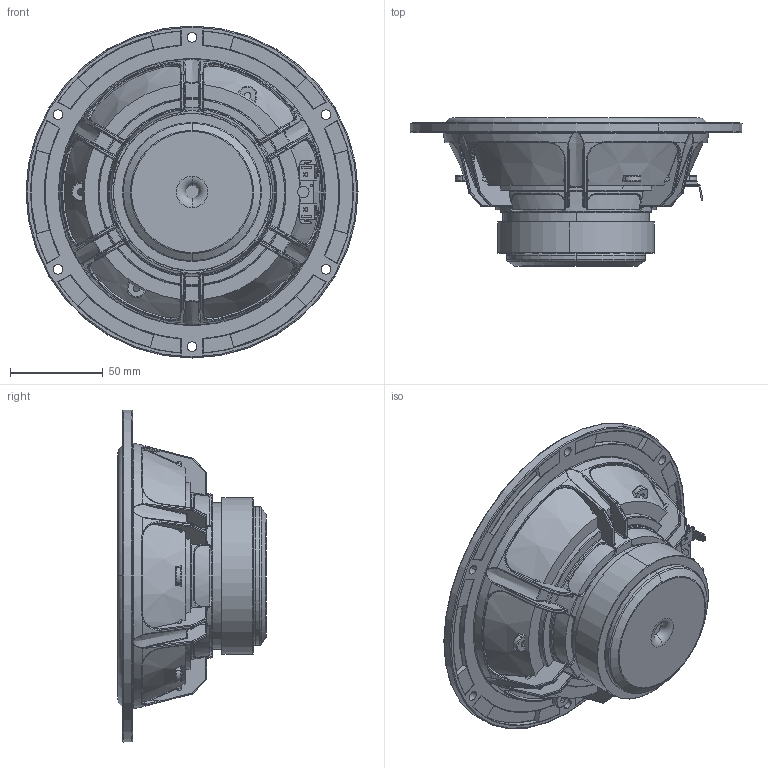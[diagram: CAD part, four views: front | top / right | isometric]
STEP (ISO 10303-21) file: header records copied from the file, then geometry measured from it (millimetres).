
FILE_DESCRIPTION (( 'STEP AP214' ), '1' );
FILE_NAME ('18W-8424G00.STEP', '2020-10-27T09:57:21', ( '' ), ( '' ), 'SwSTEP 2.0', 'SolidWorks 2019', '' );
FILE_SCHEMA (( 'AUTOMOTIVE_DESIGN' ));
Length unit declared in the file: millimetre
Products named in the file (1): 18W-8424G00
Bounding box: 179.16 x 80.09 x 179.16 mm (x, y, z)
Volume: 607511.5 mm3; surface area: 97170.4 mm2
Topology: 1 solids, 13 shells, 1363 faces, 3418 edges, 2017 vertices
Faces by surface type: bspline 318, plane 277, torus 251, cylinder 226, cone 193, sphere 98
Entity records: 64341 total; most frequent: CARTESIAN_POINT 20141, ORIENTED_EDGE 6700, DIRECTION 5947, EDGE_CURVE 3350, AXIS2_PLACEMENT_3D 2611, VERTEX_POINT 2017, CIRCLE 1565, EDGE_LOOP 1407
